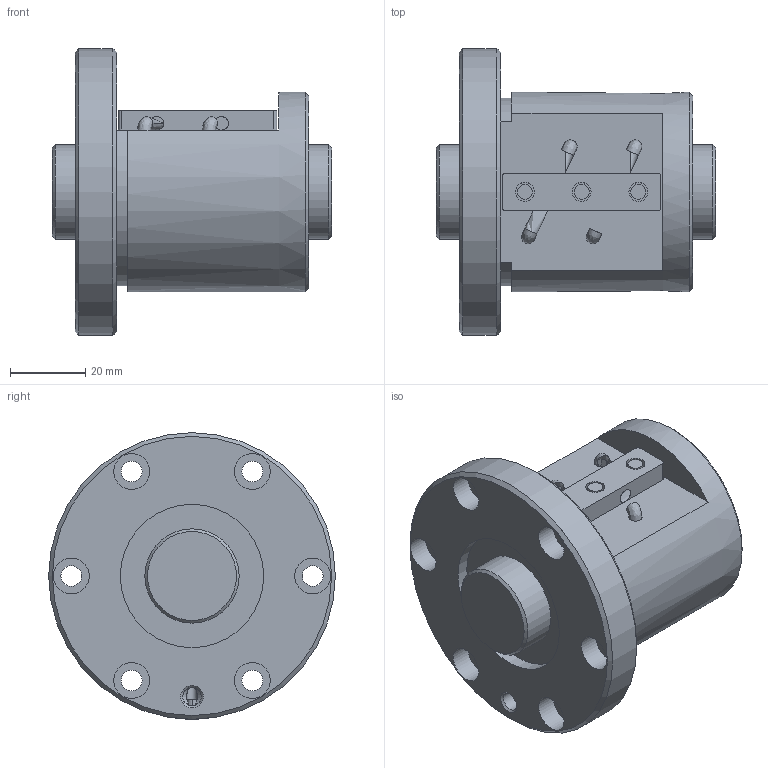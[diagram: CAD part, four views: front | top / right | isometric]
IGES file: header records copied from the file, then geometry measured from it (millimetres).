
Start section: Data from Parasolid IGES Translator 26.0.171, Copyright(c) 2006 Siemens PLM Software. All Rights Reserved.
Global section: file name: BNF2506V-5RRG1+74LC0_000_rev.igs; native system: By Siemens PLM Incorporated; preprocessor: XPlus GENERIC/IGES 26.0.171; author: Noname; organization: Noname; date: 20240806.072923; units: millimetre
Bounding box: 74 x 76 x 76 mm (x, y, z)
Surface area: 33960.6 mm2 (no closed solid volume)
Topology: 0 solids, 0 shells, 80 faces, 352 edges, 304 vertices
Faces by surface type: revolution 51, extrusion 29
